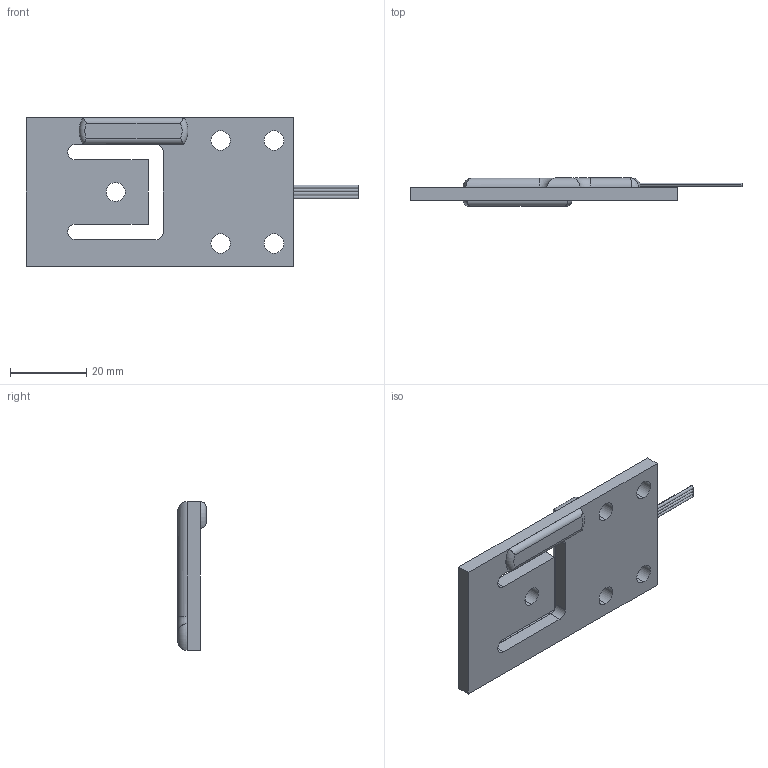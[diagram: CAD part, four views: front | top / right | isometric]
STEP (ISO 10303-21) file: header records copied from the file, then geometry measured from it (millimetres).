
FILE_DESCRIPTION (( 'STEP AP203' ), '1' );
FILE_NAME ('FHA-30KG.STEP', '2024-07-18T00:30:32', ( '' ), ( '' ), 'SwSTEP 2.0', 'SolidWorks 2019', '' );
FILE_SCHEMA (( 'CONFIG_CONTROL_DESIGN' ));
Length unit declared in the file: millimetre
Products named in the file (1): FHA-30KG
Bounding box: 87 x 7.4 x 39 mm (x, y, z)
Volume: 9964.6 mm3; surface area: 8554.2 mm2
Topology: 7 solids, 7 shells, 65 faces, 153 edges, 100 vertices
Faces by surface type: cylinder 32, plane 24, torus 7, bspline 2
Entity records: 2152 total; most frequent: CARTESIAN_POINT 542, DIRECTION 332, ORIENTED_EDGE 302, EDGE_CURVE 151, AXIS2_PLACEMENT_3D 130, VERTEX_POINT 100, EDGE_LOOP 77, LINE 72
